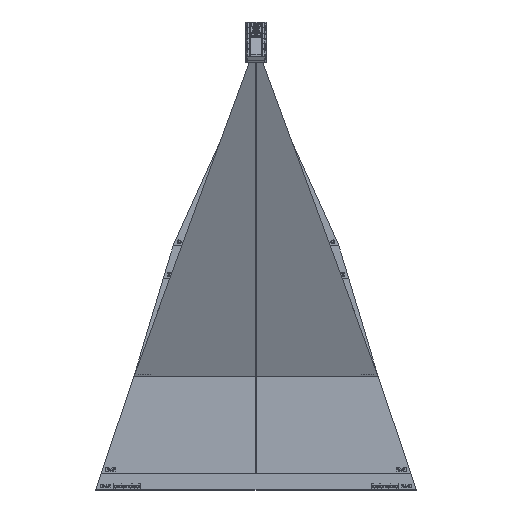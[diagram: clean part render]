
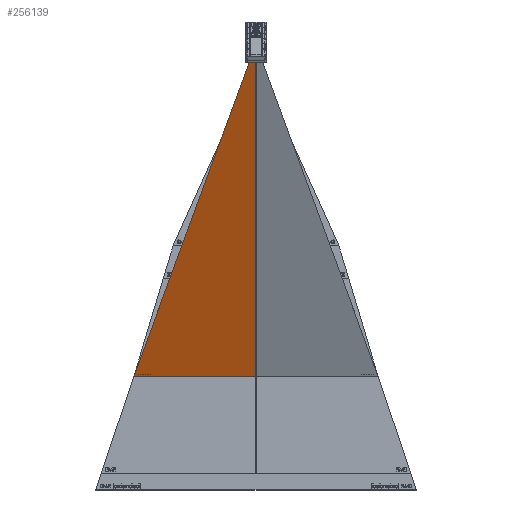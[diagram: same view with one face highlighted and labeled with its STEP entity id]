
A CAD part, top view. The second image highlights one B-rep face of the part: STEP entity #256139.
In plain terms, the highlighted planar face has unit normal (0, -0.412, 0.911).
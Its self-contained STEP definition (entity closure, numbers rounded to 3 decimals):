
#6140 = VERTEX_POINT ( 'NONE', #211497 ) ;
#6214 = VERTEX_POINT ( 'NONE', #440622 ) ;
#10569 = DIRECTION ( 'NONE',  ( -1., 0., 0. ) ) ;
#20677 = CARTESIAN_POINT ( 'NONE',  ( -16.5, -0.01, 348.023 ) ) ;
#25007 = PLANE ( 'NONE',  #240498 ) ;
#25702 = LINE ( 'NONE', #264289, #47622 ) ;
#37174 = DIRECTION ( 'NONE',  ( 1., 0., 0. ) ) ;
#45703 = VERTEX_POINT ( 'NONE', #229055 ) ;
#47306 = CARTESIAN_POINT ( 'NONE',  ( 16.5, -0.01, 348.023 ) ) ;
#47622 = VECTOR ( 'NONE', #445446, 1000. ) ;
#53116 = ORIENTED_EDGE ( 'NONE', *, *, #69726, .T. ) ;
#69726 = EDGE_CURVE ( 'NONE', #6214, #275787, #109266, .T. ) ;
#70058 = EDGE_CURVE ( 'NONE', #45703, #6140, #172523, .T. ) ;
#70666 = FACE_OUTER_BOUND ( 'NONE', #224421, .T. ) ;
#97982 = EDGE_CURVE ( 'NONE', #275787, #45703, #113088, .T. ) ;
#106263 = DIRECTION ( 'NONE',  ( -0.318, -0.864, -0.39 ) ) ;
#109266 = LINE ( 'NONE', #47306, #195868 ) ;
#113088 = LINE ( 'NONE', #388268, #317765 ) ;
#141660 = ORIENTED_EDGE ( 'NONE', *, *, #97982, .T. ) ;
#154760 = EDGE_CURVE ( 'NONE', #6214, #6140, #25702, .T. ) ;
#172523 = LINE ( 'NONE', #319077, #269523 ) ;
#195868 = VECTOR ( 'NONE', #10569, 1000. ) ;
#211497 = CARTESIAN_POINT ( 'NONE',  ( -0.025, -770.01, 0.023 ) ) ;
#224421 = EDGE_LOOP ( 'NONE', ( #446551, #53116, #141660, #428885 ) ) ;
#229055 = CARTESIAN_POINT ( 'NONE',  ( -300., -770.01, 0.023 ) ) ;
#240498 = AXIS2_PLACEMENT_3D ( 'NONE', #256232, #290647, #430630 ) ;
#256139 = ADVANCED_FACE ( 'NONE', ( #70666 ), #25007, .T. ) ;
#256232 = CARTESIAN_POINT ( 'NONE',  ( 0., -130.612, 288.998 ) ) ;
#264289 = CARTESIAN_POINT ( 'NONE',  ( -0.025, -130.612, 288.998 ) ) ;
#269523 = VECTOR ( 'NONE', #37174, 1000. ) ;
#275787 = VERTEX_POINT ( 'NONE', #20677 ) ;
#290647 = DIRECTION ( 'NONE',  ( 0., -0.412, 0.911 ) ) ;
#317765 = VECTOR ( 'NONE', #106263, 1000. ) ;
#319077 = CARTESIAN_POINT ( 'NONE',  ( -300., -770.01, 0.023 ) ) ;
#388268 = CARTESIAN_POINT ( 'NONE',  ( -16.5, -0.01, 348.023 ) ) ;
#428885 = ORIENTED_EDGE ( 'NONE', *, *, #70058, .T. ) ;
#430630 = DIRECTION ( 'NONE',  ( 0., -0.911, -0.412 ) ) ;
#440622 = CARTESIAN_POINT ( 'NONE',  ( -0.025, -0.01, 348.023 ) ) ;
#445446 = DIRECTION ( 'NONE',  ( 0., -0.911, -0.412 ) ) ;
#446551 = ORIENTED_EDGE ( 'NONE', *, *, #154760, .F. ) ;
